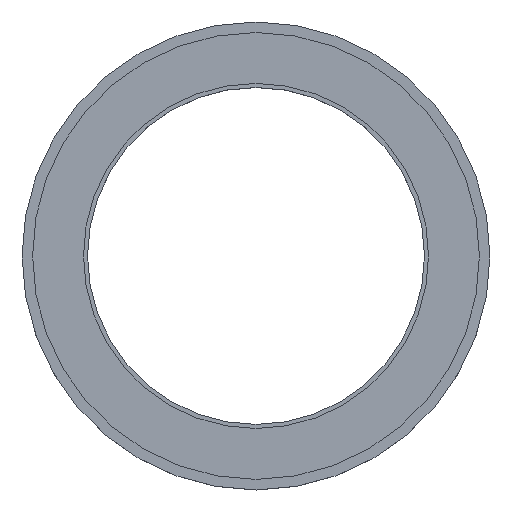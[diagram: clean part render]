
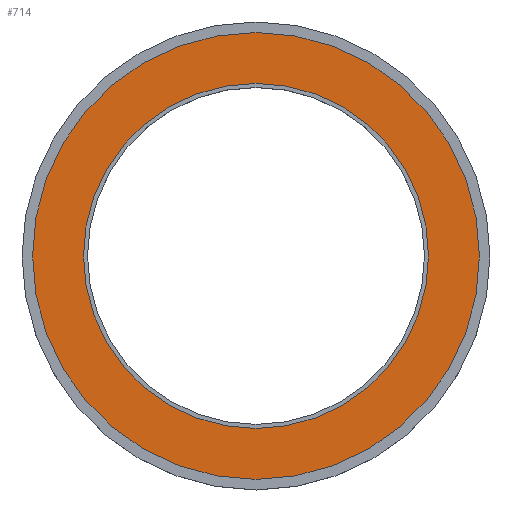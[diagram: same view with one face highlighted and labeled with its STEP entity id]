
A CAD part, top view. The second image highlights one B-rep face of the part: STEP entity #714.
In plain terms, the highlighted planar face has unit normal (0, 0, 1).
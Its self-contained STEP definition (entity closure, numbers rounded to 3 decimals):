
#233=CARTESIAN_POINT('',(0.,0.,23.5));
#234=DIRECTION('',(0.,0.,1.));
#235=DIRECTION('',(1.,0.,0.));
#236=AXIS2_PLACEMENT_3D('',#233,#234,#235);
#238=CARTESIAN_POINT('',(0.,0.,23.5));
#239=DIRECTION('',(0.,0.,1.));
#240=DIRECTION('',(-1.,0.,0.));
#241=AXIS2_PLACEMENT_3D('',#238,#239,#240);
#243=CARTESIAN_POINT('',(0.,0.,23.5));
#244=DIRECTION('',(0.,0.,-1.));
#245=DIRECTION('',(1.,0.,0.));
#246=AXIS2_PLACEMENT_3D('',#243,#244,#245);
#248=CARTESIAN_POINT('',(0.,0.,23.5));
#249=DIRECTION('',(0.,0.,-1.));
#250=DIRECTION('',(-1.,0.,0.));
#251=AXIS2_PLACEMENT_3D('',#248,#249,#250);
#269=CARTESIAN_POINT('',(95.5,0.,23.5));
#270=CARTESIAN_POINT('',(-95.5,0.,23.5));
#271=VERTEX_POINT('',#269);
#272=VERTEX_POINT('',#270);
#273=CARTESIAN_POINT('',(73.75,0.,23.5));
#274=CARTESIAN_POINT('',(-73.75,0.,23.5));
#275=VERTEX_POINT('',#273);
#276=VERTEX_POINT('',#274);
#699=CARTESIAN_POINT('',(0.,0.,23.5));
#700=DIRECTION('',(0.,0.,1.));
#701=DIRECTION('',(1.,0.,0.));
#702=AXIS2_PLACEMENT_3D('',#699,#700,#701);
#703=PLANE('',#702);
#704=ORIENTED_EDGE('',*,*,#679,.F.);
#705=ORIENTED_EDGE('',*,*,#693,.F.);
#706=EDGE_LOOP('',(#704,#705));
#707=FACE_OUTER_BOUND('',#706,.F.);
#709=ORIENTED_EDGE('',*,*,#708,.F.);
#711=ORIENTED_EDGE('',*,*,#710,.F.);
#712=EDGE_LOOP('',(#709,#711));
#713=FACE_BOUND('',#712,.F.);
#237=CIRCLE('',#236,95.5);
#242=CIRCLE('',#241,95.5);
#247=CIRCLE('',#246,73.75);
#252=CIRCLE('',#251,73.75);
#679=EDGE_CURVE('',#271,#272,#237,.T.);
#693=EDGE_CURVE('',#272,#271,#242,.T.);
#708=EDGE_CURVE('',#275,#276,#247,.T.);
#710=EDGE_CURVE('',#276,#275,#252,.T.);
#714=ADVANCED_FACE('',(#707,#713),#703,.T.);
